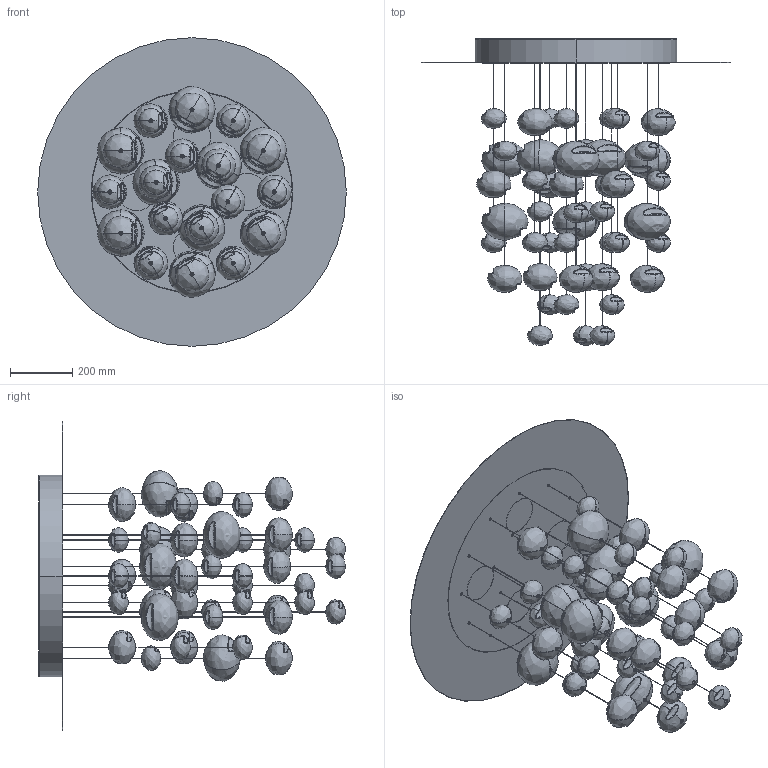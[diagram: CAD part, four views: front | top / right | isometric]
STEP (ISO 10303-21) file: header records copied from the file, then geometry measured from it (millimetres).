
FILE_DESCRIPTION (( 'STEP AP203' ), '1' );
FILE_NAME ('ETHER_S90_STEP.STEP', '2016-02-02T11:30:15', ( 'admin' ), ( '' ), 'SwSTEP 2.0', 'SolidWorks 2015', '' );
FILE_SCHEMA (( 'CONFIG_CONTROL_DESIGN' ));
Length unit declared in the file: millimetre
Products named in the file (2): ETHER_S90_STEP
Bounding box: 995 x 988.45 x 995 mm (x, y, z)
Volume: 5151363.8 mm3; surface area: 5805318.3 mm2
Topology: 140 solids, 140 shells, 1745 faces, 4474 edges, 2926 vertices
Faces by surface type: bspline 1018, cylinder 566, plane 161
Entity records: 1051330 total; most frequent: CARTESIAN_POINT 1014089, ORIENTED_EDGE 8948, DIRECTION 6328, EDGE_CURVE 4474, VERTEX_POINT 2926, AXIS2_PLACEMENT_3D 2881, CIRCLE 2152, EDGE_LOOP 1946
